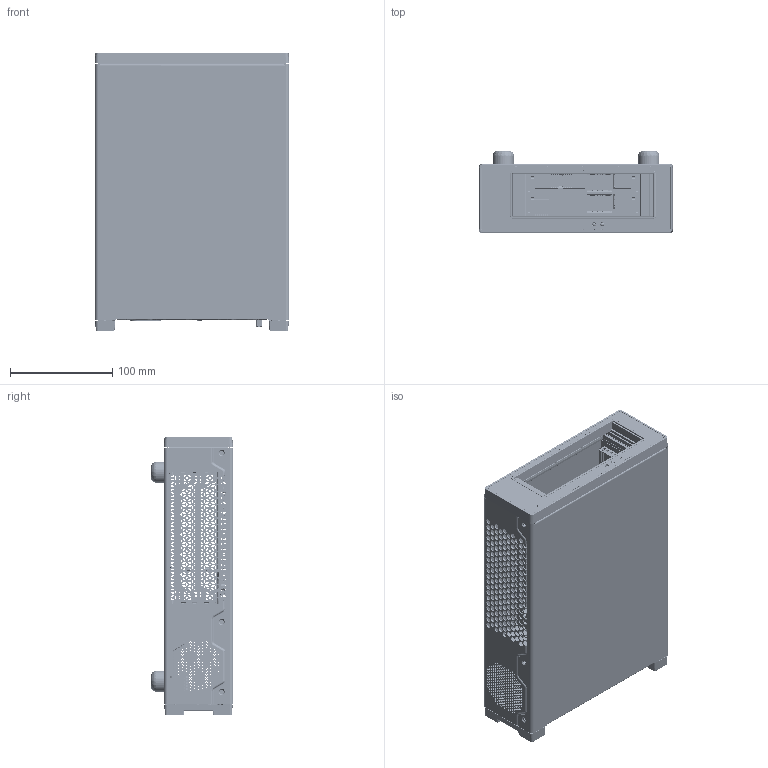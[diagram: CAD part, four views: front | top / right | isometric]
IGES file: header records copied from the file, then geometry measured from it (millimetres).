
Start section:  PTC IGES file: CU_PXIE-1090-01.igs
Global section: file name: CU_PXIE-1090-01.igs; native system: Creo Parametric by PTC Inc.; preprocessor: 2019224; author: choskins; organization: Unknown; date: 20210623.130555; units: millimetre
Bounding box: 189.6 x 80.2 x 271.69 mm (x, y, z)
Surface area: 649284.2 mm2 (no closed solid volume)
Topology: 0 solids, 0 shells, 12207 faces, 71373 edges, 71343 vertices
Faces by surface type: bspline 7378, revolution 4829
